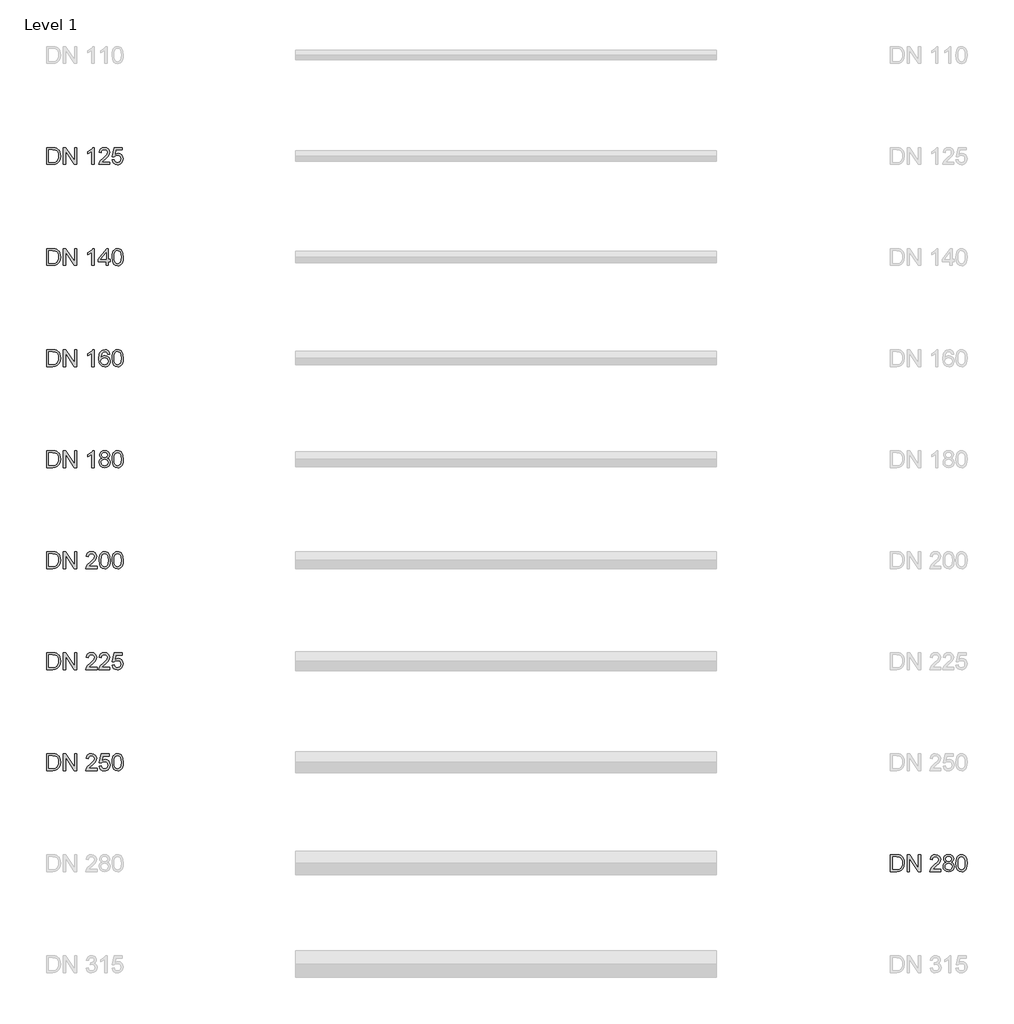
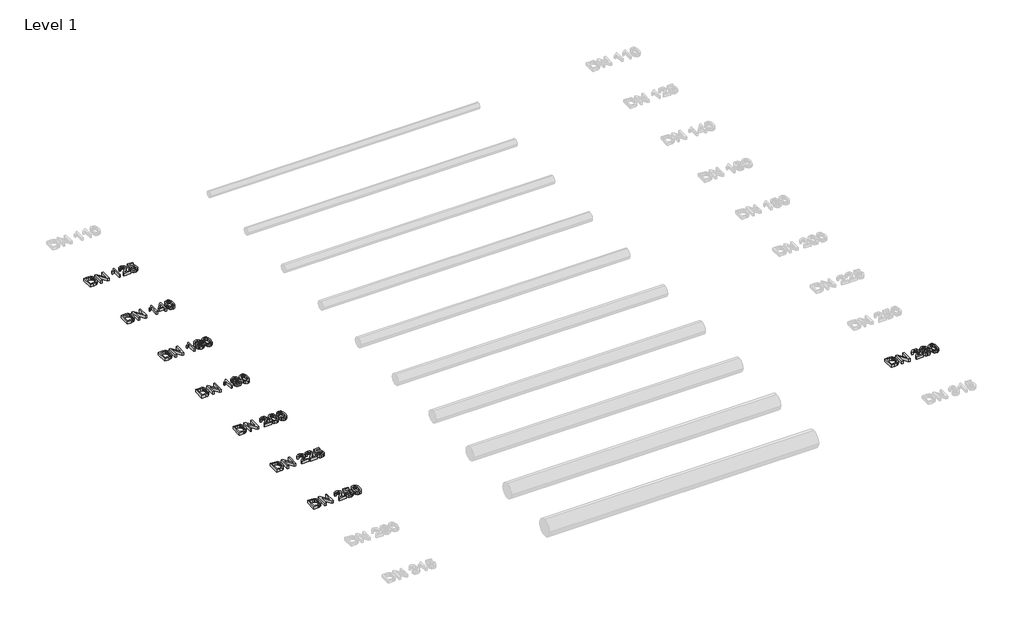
# One storey, part 8 of 26: 8 proxies.
"""IFC4 building model written with IfcOpenShell, lengths in millimetres."""

from ifc_helpers import new_model, si_unit, origin, origin_with_axes, place, context, project, spatial, polyline, outline, extrude, element, save

model = new_model("IFC4")

# Units and contexts
model_context = context("Model", 3, world=origin())
ifc_project = project(units=[si_unit("LENGTHUNIT", "METRE", prefix="MILLI")], contexts=[model_context])

# Site, building, storey
site = spatial("IfcSite", under=ifc_project)
building = spatial("IfcBuilding", under=site)
storey = spatial("IfcBuildingStorey", under=building, Name="Level 1", Elevation=0.0)

# Proxies
placement = place(None, origin())
element("IfcBuildingElementProxy", 1, Name="200mm Arial", ObjectType="200mm Arial", at=placement, inside=storey, context=model_context, shape_type="SweptSolid", body=[
    extrude(outline(polyline([(-19491.3116028, -75213.949573), (-19491.3116028, -75013.0369527), (-19422.0026349, -75013.0369527), (-19386.1464031, -75015.9309577), (-19370.1312736, -75021.5105013), (-19356.6177416, -75030.302881), (-19342.724065, -75045.606772), (-19332.8280393, -75064.6385338), (-19326.9051392, -75087.0302846), (-19324.9308391, -75112.4141423), (-19330.2773908, -75152.9547382), (-19344.0116519, -75182.2136195), (-19362.3567008, -75200.436041), (-19386.3671323, -75210.5160077), (-19418.6671715, -75213.949573), (-19491.3116028, -75213.949573)]), holes=[polyline([(-19466.1975253, -75188.8354954), (-19421.7573803, -75188.8354954), (-19389.4328156, -75185.2057264), (-19370.7934612, -75174.9540815), (-19362.0685265, -75164.0831685), (-19355.5140957, -75150.0116822), (-19351.4122114, -75132.6783089), (-19350.0449167, -75112.0217348), (-19352.7243239, -75084.6513144), (-19360.7625455, -75064.4423301), (-19372.6390025, -75050.5609162), (-19386.8331162, -75042.1732067), (-19422.4440933, -75038.1510302), (-19466.1975253, -75038.1510302), (-19466.1975253, -75188.8354954)])]), origin_with_axes(), (0.0, 0.0, 1.0), 50.0),
    extrude(outline(polyline([(-19290.3989825, -75213.949573), (-19290.3989825, -75013.0369527), (-19263.5190714, -75013.0369527), (-19158.5500754, -75172.2072292), (-19158.5500754, -75013.0369527), (-19133.4359979, -75013.0369527), (-19133.4359979, -75213.949573), (-19160.315909, -75213.949573), (-19265.284905, -75054.7302454), (-19265.284905, -75213.949573), (-19290.3989825, -75213.949573)])), origin_with_axes(), (0.0, 0.0, 1.0), 50.0),
    extrude(outline(polyline([(-18926.2448582, -75213.949573), (-18951.3589358, -75213.949573), (-18951.3589358, -75057.3789958), (-18975.1486381, -75074.3260931), (-19001.5870908, -75087.0057592), (-19001.5870908, -75063.2651077), (-18964.7743658, -75039.769711), (-18951.3037535, -75026.1948653), (-18942.431666, -75013.0369527), (-18926.2448582, -75013.0369527), (-18926.2448582, -75213.949573)])), origin_with_axes(), (0.0, 0.0, 1.0), 50.0),
    extrude(outline(polyline([(-18737.8892767, -75066.4043674), (-18763.0033542, -75069.5436271), (-18772.5192352, -75048.5988789), (-18783.9113143, -75040.7629924), (-18797.6823636, -75038.1510302), (-18820.3438945, -75044.2333458), (-18829.7800677, -75053.8411973), (-18837.4871955, -75067.066555), (-18842.6927257, -75085.7733545), (-18844.6241062, -75111.8255311), (-18834.5502709, -75100.0717013), (-18822.4776101, -75091.7882251), (-18809.0805741, -75086.8770005), (-18795.0336133, -75085.2399256), (-18771.8325221, -75089.7158232), (-18752.3593018, -75103.143516), (-18739.1523382, -75123.6590686), (-18734.750017, -75149.3985455), (-18736.8224189, -75167.3818437), (-18743.0396246, -75184.0530295), (-18752.8865994, -75198.1919608), (-18765.8483083, -75208.5784958), (-18781.3361403, -75214.9612484), (-18798.7614842, -75217.0888326), (-18827.2539447, -75211.4479754), (-18849.9461324, -75194.5254036), (-18858.6051549, -75181.4165418), (-18864.7901709, -75164.6533856), (-18869.7381838, -75120.1641897), (-18864.2444793, -75070.144501), (-18857.3773487, -75051.0667539), (-18847.7633659, -75035.9437382), (-18837.3431084, -75025.9220195), (-18825.2612505, -75018.763649), (-18796.1127338, -75013.0369527), (-18774.0766023, -75016.5808825), (-18756.4305292, -75027.2126722), (-18744.0696942, -75044.0984558), (-18737.8892767, -75066.4043674)]), holes=[polyline([(-18844.6241062, -75149.0061381), (-18838.8115707, -75170.7602267), (-18823.3605269, -75186.554627), (-18800.7235215, -75191.9747551), (-18784.1504376, -75189.1665892), (-18771.1212836, -75180.7420915), (-18762.6783918, -75167.4983397), (-18759.8640945, -75150.2324114), (-18762.6416036, -75133.6593275), (-18770.9741308, -75121.022581), (-18784.224014, -75113.0211476), (-18801.7535911, -75110.3540031), (-18818.3021495, -75113.0211476), (-18832.1406439, -75121.022581), (-18841.5032406, -75133.3527592), (-18844.6241062, -75149.0061381)])]), origin_with_axes(), (0.0, 0.0, 1.0), 50.0),
    extrude(outline(polyline([(-18712.7751992, -75115.1119436), (-18710.9296578, -75082.9529258), (-18705.3930338, -75057.3054194), (-18696.2205094, -75037.7770168), (-18683.4672669, -75023.9753106), (-18667.0413358, -75015.7715422), (-18646.8507456, -75013.0369527), (-18631.3751764, -75014.6556334), (-18617.5182879, -75019.5116758), (-18605.930005, -75027.4150073), (-18597.2602527, -75038.1755557), (-18585.4880288, -75067.9004209), (-18580.9262921, -75115.1119436), (-18582.7534393, -75147.0870203), (-18588.2348811, -75172.6732131), (-18597.3522232, -75192.2200098), (-18610.0870716, -75206.0768983), (-18626.5497909, -75214.335849), (-18646.8507456, -75217.0888326), (-18672.9458418, -75212.3063667), (-18692.7624186, -75197.9589689), (-18701.5180101, -75182.8298218), (-18707.772004, -75163.9789353), (-18712.7751992, -75115.1119436)]), holes=[polyline([(-18687.6611216, -75115.0628927), (-18684.7180657, -75154.5672876), (-18675.8888978, -75177.4311536), (-18662.7432478, -75188.3388547), (-18646.8507456, -75191.9747551), (-18630.9582434, -75188.326592), (-18617.8125935, -75177.3821026), (-18608.9834256, -75154.5059739), (-18606.0403696, -75115.0628927), (-18608.8853237, -75076.4475459), (-18617.420186, -75053.4058703), (-18630.5413105, -75041.9647402), (-18647.1450512, -75038.1510302), (-18662.8658751, -75041.5110191), (-18675.4964903, -75051.5909857), (-18684.6199638, -75076.0674012), (-18687.6611216, -75115.0628927)])]), origin_with_axes(), (0.0, 0.0, 1.0), 50.0),
])
element("IfcBuildingElementProxy", 2, Name="200mm Arial", ObjectType="200mm Arial", at=placement, inside=storey, context=model_context, shape_type="SweptSolid", body=[
    extrude(outline(polyline([(-19491.3116028, -77613.949573), (-19491.3116028, -77413.0369527), (-19422.0026349, -77413.0369527), (-19386.1464031, -77415.9309577), (-19370.1312736, -77421.5105013), (-19356.6177416, -77430.302881), (-19342.724065, -77445.606772), (-19332.8280393, -77464.6385338), (-19326.9051392, -77487.0302846), (-19324.9308391, -77512.4141423), (-19330.2773908, -77552.9547382), (-19344.0116519, -77582.2136195), (-19362.3567008, -77600.436041), (-19386.3671323, -77610.5160077), (-19418.6671715, -77613.949573), (-19491.3116028, -77613.949573)]), holes=[polyline([(-19466.1975253, -77588.8354954), (-19421.7573803, -77588.8354954), (-19389.4328156, -77585.2057264), (-19370.7934612, -77574.9540815), (-19362.0685265, -77564.0831685), (-19355.5140957, -77550.0116822), (-19351.4122114, -77532.6783089), (-19350.0449167, -77512.0217348), (-19352.7243239, -77484.6513144), (-19360.7625455, -77464.4423301), (-19372.6390025, -77450.5609162), (-19386.8331162, -77442.1732067), (-19422.4440933, -77438.1510302), (-19466.1975253, -77438.1510302), (-19466.1975253, -77588.8354954)])]), origin_with_axes(), (0.0, 0.0, 1.0), 50.0),
    extrude(outline(polyline([(-19290.3989825, -77613.949573), (-19290.3989825, -77413.0369527), (-19263.5190714, -77413.0369527), (-19158.5500754, -77572.2072292), (-19158.5500754, -77413.0369527), (-19133.4359979, -77413.0369527), (-19133.4359979, -77613.949573), (-19160.315909, -77613.949573), (-19265.284905, -77454.7302454), (-19265.284905, -77613.949573), (-19290.3989825, -77613.949573)])), origin_with_axes(), (0.0, 0.0, 1.0), 50.0),
    extrude(outline(polyline([(-18891.7130016, -77588.8354954), (-18891.7130016, -77613.949573), (-19023.5619087, -77613.949573), (-19020.8641074, -77596.6345937), (-19005.6092673, -77569.9754118), (-18974.1676195, -77540.8636832), (-18930.806595, -77499.0232377), (-18922.6764029, -77484.6022634), (-18919.9663388, -77470.5736967), (-18922.5231187, -77457.9982638), (-18930.1934583, -77447.5442838), (-18941.9840762, -77440.4993436), (-18956.9016912, -77438.1510302), (-18972.5673328, -77440.4441613), (-18984.7380955, -77447.3235546), (-18992.5923761, -77458.2496499), (-18995.3085714, -77472.6828868), (-19020.422649, -77469.5436271), (-19014.334202, -77445.2511527), (-19001.1701579, -77427.5069778), (-18981.6172299, -77416.6544589), (-18956.3621309, -77413.0369527), (-18930.9230909, -77417.0591291), (-18911.4069511, -77429.1256586), (-18898.9909337, -77447.1518763), (-18894.8522613, -77469.0531178), (-18899.3158962, -77492.8673456), (-18914.1538033, -77517.4909138), (-18950.1326624, -77551.9001431), (-18979.0236618, -77576.0577275), (-18990.3544272, -77588.8354954), (-18891.7130016, -77588.8354954)])), origin_with_axes(), (0.0, 0.0, 1.0), 50.0),
    extrude(outline(polyline([(-18866.5989241, -77515.1119436), (-18864.7533827, -77482.9529258), (-18859.2167587, -77457.3054194), (-18850.0442343, -77437.7770168), (-18837.2909918, -77423.9753106), (-18820.8650607, -77415.7715422), (-18800.6744705, -77413.0369527), (-18785.1989013, -77414.6556334), (-18771.3420128, -77419.5116758), (-18759.7537299, -77427.4150073), (-18751.0839776, -77438.1755557), (-18739.3117537, -77467.9004209), (-18734.750017, -77515.1119436), (-18736.5771642, -77547.0870203), (-18742.058606, -77572.6732131), (-18751.1759481, -77592.2200098), (-18763.9107965, -77606.0768983), (-18780.3735158, -77614.335849), (-18800.6744705, -77617.0888326), (-18826.7695667, -77612.3063667), (-18846.5861435, -77597.9589689), (-18855.341735, -77582.8298218), (-18861.5957289, -77563.9789353), (-18866.5989241, -77515.1119436)]), holes=[polyline([(-18841.4848465, -77515.0628927), (-18838.5417906, -77554.5672876), (-18829.7126227, -77577.4311536), (-18816.5669727, -77588.3388547), (-18800.6744705, -77591.9747551), (-18784.7819683, -77588.326592), (-18771.6363184, -77577.3821026), (-18762.8071505, -77554.5059739), (-18759.8640945, -77515.0628927), (-18762.7090486, -77476.4475459), (-18771.2439109, -77453.4058703), (-18784.3650354, -77441.9647402), (-18800.9687761, -77438.1510302), (-18816.6896001, -77441.5110191), (-18829.3202152, -77451.5909857), (-18838.4436887, -77476.0674012), (-18841.4848465, -77515.0628927)])]), origin_with_axes(), (0.0, 0.0, 1.0), 50.0),
    extrude(outline(polyline([(-18712.7751992, -77515.1119436), (-18710.9296578, -77482.9529258), (-18705.3930338, -77457.3054194), (-18696.2205094, -77437.7770168), (-18683.4672669, -77423.9753106), (-18667.0413358, -77415.7715422), (-18646.8507456, -77413.0369527), (-18631.3751764, -77414.6556334), (-18617.5182879, -77419.5116758), (-18605.930005, -77427.4150073), (-18597.2602527, -77438.1755557), (-18585.4880288, -77467.9004209), (-18580.9262921, -77515.1119436), (-18582.7534393, -77547.0870203), (-18588.2348811, -77572.6732131), (-18597.3522232, -77592.2200098), (-18610.0870716, -77606.0768983), (-18626.5497909, -77614.335849), (-18646.8507456, -77617.0888326), (-18672.9458418, -77612.3063667), (-18692.7624186, -77597.9589689), (-18701.5180101, -77582.8298218), (-18707.772004, -77563.9789353), (-18712.7751992, -77515.1119436)]), holes=[polyline([(-18687.6611216, -77515.0628927), (-18684.7180657, -77554.5672876), (-18675.8888978, -77577.4311536), (-18662.7432478, -77588.3388547), (-18646.8507456, -77591.9747551), (-18630.9582434, -77588.326592), (-18617.8125935, -77577.3821026), (-18608.9834256, -77554.5059739), (-18606.0403696, -77515.0628927), (-18608.8853237, -77476.4475459), (-18617.420186, -77453.4058703), (-18630.5413105, -77441.9647402), (-18647.1450512, -77438.1510302), (-18662.8658751, -77441.5110191), (-18675.4964903, -77451.5909857), (-18684.6199638, -77476.0674012), (-18687.6611216, -77515.0628927)])]), origin_with_axes(), (0.0, 0.0, 1.0), 50.0),
])
element("IfcBuildingElementProxy", 3, Name="200mm Arial", ObjectType="200mm Arial", at=placement, inside=storey, context=model_context, shape_type="SweptSolid", body=[
    extrude(outline(polyline([(-19491.3116028, -80013.949573), (-19491.3116028, -79813.0369527), (-19422.0026349, -79813.0369527), (-19386.1464031, -79815.9309577), (-19370.1312736, -79821.5105013), (-19356.6177416, -79830.302881), (-19342.724065, -79845.606772), (-19332.8280393, -79864.6385338), (-19326.9051392, -79887.0302846), (-19324.9308391, -79912.4141423), (-19330.2773908, -79952.9547382), (-19344.0116519, -79982.2136195), (-19362.3567008, -80000.436041), (-19386.3671323, -80010.5160077), (-19418.6671715, -80013.949573), (-19491.3116028, -80013.949573)]), holes=[polyline([(-19466.1975253, -79988.8354954), (-19421.7573803, -79988.8354954), (-19389.4328156, -79985.2057264), (-19370.7934612, -79974.9540815), (-19362.0685265, -79964.0831685), (-19355.5140957, -79950.0116822), (-19351.4122114, -79932.6783089), (-19350.0449167, -79912.0217348), (-19352.7243239, -79884.6513144), (-19360.7625455, -79864.4423301), (-19372.6390025, -79850.5609162), (-19386.8331162, -79842.1732067), (-19422.4440933, -79838.1510302), (-19466.1975253, -79838.1510302), (-19466.1975253, -79988.8354954)])]), origin_with_axes(), (0.0, 0.0, 1.0), 50.0),
    extrude(outline(polyline([(-19290.3989825, -80013.949573), (-19290.3989825, -79813.0369527), (-19263.5190714, -79813.0369527), (-19158.5500754, -79972.2072292), (-19158.5500754, -79813.0369527), (-19133.4359979, -79813.0369527), (-19133.4359979, -80013.949573), (-19160.315909, -80013.949573), (-19265.284905, -79854.7302454), (-19265.284905, -80013.949573), (-19290.3989825, -80013.949573)])), origin_with_axes(), (0.0, 0.0, 1.0), 50.0),
    extrude(outline(polyline([(-18891.7130016, -79988.8354954), (-18891.7130016, -80013.949573), (-19023.5619087, -80013.949573), (-19020.8641074, -79996.6345937), (-19005.6092673, -79969.9754118), (-18974.1676195, -79940.8636832), (-18930.806595, -79899.0232377), (-18922.6764029, -79884.6022634), (-18919.9663388, -79870.5736967), (-18922.5231187, -79857.9982638), (-18930.1934583, -79847.5442838), (-18941.9840762, -79840.4993436), (-18956.9016912, -79838.1510302), (-18972.5673328, -79840.4441613), (-18984.7380955, -79847.3235546), (-18992.5923761, -79858.2496499), (-18995.3085714, -79872.6828868), (-19020.422649, -79869.5436271), (-19014.334202, -79845.2511527), (-19001.1701579, -79827.5069778), (-18981.6172299, -79816.6544589), (-18956.3621309, -79813.0369527), (-18930.9230909, -79817.0591291), (-18911.4069511, -79829.1256586), (-18898.9909337, -79847.1518763), (-18894.8522613, -79869.0531178), (-18899.3158962, -79892.8673456), (-18914.1538033, -79917.4909138), (-18950.1326624, -79951.9001431), (-18979.0236618, -79976.0577275), (-18990.3544272, -79988.8354954), (-18891.7130016, -79988.8354954)])), origin_with_axes(), (0.0, 0.0, 1.0), 50.0),
    extrude(outline(polyline([(-18866.5989241, -79960.5821582), (-18841.4848465, -79957.4428985), (-18836.8740589, -79972.5199289), (-18828.8297059, -79983.3172655), (-18817.3885758, -79989.8103827), (-18802.5874569, -79991.9747551), (-18784.5857646, -79988.9642541), (-18771.0967581, -79979.9327511), (-18762.6722604, -79965.9225785), (-18759.8640945, -79947.9760685), (-18762.4944508, -79931.0780222), (-18770.3855196, -79918.1531014), (-18783.5986146, -79909.9493329), (-18802.1950494, -79907.2147434), (-18824.2434437, -79911.5802764), (-18838.3455868, -79922.9110419), (-18863.4596644, -79919.7717822), (-18841.4848465, -79816.1762123), (-18744.1677961, -79816.1762123), (-18744.1677961, -79841.2902899), (-18821.1777604, -79841.2902899), (-18831.9199147, -79896.619742), (-18813.979536, -79885.7304349), (-18795.1807661, -79882.1006659), (-18771.7160261, -79886.601089), (-18752.2366745, -79900.1023582), (-18739.1216814, -79920.6792244), (-18734.750017, -79946.4064386), (-18738.6863543, -79971.5205162), (-18750.4953664, -79993.0048247), (-18760.9309523, -80003.5415782), (-18773.1078464, -80011.0678307), (-18787.0260485, -80015.5835821), (-18802.6855588, -80017.0888326), (-18827.3520466, -80013.2199403), (-18847.0030765, -80001.6132634), (-18860.4736888, -79983.6177025), (-18866.5989241, -79960.5821582)])), origin_with_axes(), (0.0, 0.0, 1.0), 50.0),
    extrude(outline(polyline([(-18712.7751992, -79915.1119436), (-18710.9296578, -79882.9529258), (-18705.3930338, -79857.3054194), (-18696.2205094, -79837.7770168), (-18683.4672669, -79823.9753106), (-18667.0413358, -79815.7715422), (-18646.8507456, -79813.0369527), (-18631.3751764, -79814.6556334), (-18617.5182879, -79819.5116758), (-18605.930005, -79827.4150073), (-18597.2602527, -79838.1755557), (-18585.4880288, -79867.9004209), (-18580.9262921, -79915.1119436), (-18582.7534393, -79947.0870203), (-18588.2348811, -79972.6732131), (-18597.3522232, -79992.2200098), (-18610.0870716, -80006.0768983), (-18626.5497909, -80014.335849), (-18646.8507456, -80017.0888326), (-18672.9458418, -80012.3063667), (-18692.7624186, -79997.9589689), (-18701.5180101, -79982.8298218), (-18707.772004, -79963.9789353), (-18712.7751992, -79915.1119436)]), holes=[polyline([(-18687.6611216, -79915.0628927), (-18684.7180657, -79954.5672876), (-18675.8888978, -79977.4311536), (-18662.7432478, -79988.3388547), (-18646.8507456, -79991.9747551), (-18630.9582434, -79988.326592), (-18617.8125935, -79977.3821026), (-18608.9834256, -79954.5059739), (-18606.0403696, -79915.0628927), (-18608.8853237, -79876.4475459), (-18617.420186, -79853.4058703), (-18630.5413105, -79841.9647402), (-18647.1450512, -79838.1510302), (-18662.8658751, -79841.5110191), (-18675.4964903, -79851.5909857), (-18684.6199638, -79876.0674012), (-18687.6611216, -79915.0628927)])]), origin_with_axes(), (0.0, 0.0, 1.0), 50.0),
])
element("IfcBuildingElementProxy", 4, Name="200mm Arial", ObjectType="200mm Arial", at=placement, inside=storey, context=model_context, shape_type="SweptSolid", body=[
    extrude(outline(polyline([(-19491.3116028, -72813.949573), (-19491.3116028, -72613.0369527), (-19422.0026349, -72613.0369527), (-19386.1464031, -72615.9309577), (-19370.1312736, -72621.5105013), (-19356.6177416, -72630.302881), (-19342.724065, -72645.606772), (-19332.8280393, -72664.6385338), (-19326.9051392, -72687.0302846), (-19324.9308391, -72712.4141423), (-19330.2773908, -72752.9547382), (-19344.0116519, -72782.2136195), (-19362.3567008, -72800.436041), (-19386.3671323, -72810.5160077), (-19418.6671715, -72813.949573), (-19491.3116028, -72813.949573)]), holes=[polyline([(-19466.1975253, -72788.8354954), (-19421.7573803, -72788.8354954), (-19389.4328156, -72785.2057264), (-19370.7934612, -72774.9540815), (-19362.0685265, -72764.0831685), (-19355.5140957, -72750.0116822), (-19351.4122114, -72732.6783089), (-19350.0449167, -72712.0217348), (-19352.7243239, -72684.6513144), (-19360.7625455, -72664.4423301), (-19372.6390025, -72650.5609162), (-19386.8331162, -72642.1732067), (-19422.4440933, -72638.1510302), (-19466.1975253, -72638.1510302), (-19466.1975253, -72788.8354954)])]), origin_with_axes(), (0.0, 0.0, 1.0), 50.0),
    extrude(outline(polyline([(-19290.3989825, -72813.949573), (-19290.3989825, -72613.0369527), (-19263.5190714, -72613.0369527), (-19158.5500754, -72772.2072292), (-19158.5500754, -72613.0369527), (-19133.4359979, -72613.0369527), (-19133.4359979, -72813.949573), (-19160.315909, -72813.949573), (-19265.284905, -72654.7302454), (-19265.284905, -72813.949573), (-19290.3989825, -72813.949573)])), origin_with_axes(), (0.0, 0.0, 1.0), 50.0),
    extrude(outline(polyline([(-18926.2448582, -72813.949573), (-18951.3589358, -72813.949573), (-18951.3589358, -72657.3789958), (-18975.1486381, -72674.3260931), (-19001.5870908, -72687.0057592), (-19001.5870908, -72663.2651077), (-18964.7743658, -72639.769711), (-18951.3037535, -72626.1948653), (-18942.431666, -72613.0369527), (-18926.2448582, -72613.0369527), (-18926.2448582, -72813.949573)])), origin_with_axes(), (0.0, 0.0, 1.0), 50.0),
    extrude(outline(polyline([(-18737.8892767, -72788.8354954), (-18737.8892767, -72813.949573), (-18869.7381838, -72813.949573), (-18867.0403825, -72796.6345937), (-18851.7855424, -72769.9754118), (-18820.3438945, -72740.8636832), (-18776.98287, -72699.0232377), (-18768.852678, -72684.6022634), (-18766.1426139, -72670.5736967), (-18768.6993938, -72657.9982638), (-18776.3697334, -72647.5442838), (-18788.1603513, -72640.4993436), (-18803.0779662, -72638.1510302), (-18818.7436079, -72640.4441613), (-18830.9143705, -72647.3235546), (-18838.7686511, -72658.2496499), (-18841.4848465, -72672.6828868), (-18866.5989241, -72669.5436271), (-18860.510477, -72645.2511527), (-18847.346433, -72627.5069778), (-18827.7935049, -72616.6544589), (-18802.538406, -72613.0369527), (-18777.099366, -72617.0591291), (-18757.5832262, -72629.1256586), (-18745.1672088, -72647.1518763), (-18741.0285364, -72669.0531178), (-18745.4921713, -72692.8673456), (-18760.3300784, -72717.4909138), (-18796.3089375, -72751.9001431), (-18825.1999369, -72776.0577275), (-18836.5307023, -72788.8354954), (-18737.8892767, -72788.8354954)])), origin_with_axes(), (0.0, 0.0, 1.0), 50.0),
    extrude(outline(polyline([(-18712.7751992, -72760.5821582), (-18687.6611216, -72757.4428985), (-18683.0503339, -72772.5199289), (-18675.005981, -72783.3172655), (-18663.5648509, -72789.8103827), (-18648.763732, -72791.9747551), (-18630.7620397, -72788.9642541), (-18617.2730332, -72779.9327511), (-18608.8485355, -72765.9225785), (-18606.0403696, -72747.9760685), (-18608.6707259, -72731.0780222), (-18616.5617947, -72718.1531014), (-18629.7748897, -72709.9493329), (-18648.3713245, -72707.2147434), (-18670.4197188, -72711.5802764), (-18684.5218619, -72722.9110419), (-18709.6359395, -72719.7717822), (-18687.6611216, -72616.1762123), (-18590.3440712, -72616.1762123), (-18590.3440712, -72641.2902899), (-18667.3540355, -72641.2902899), (-18678.0961897, -72696.619742), (-18660.1558111, -72685.7304349), (-18641.3570412, -72682.1006659), (-18617.8923012, -72686.601089), (-18598.4129496, -72700.1023582), (-18585.2979565, -72720.6792244), (-18580.9262921, -72746.4064386), (-18584.8626294, -72771.5205162), (-18596.6716415, -72793.0048247), (-18607.1072274, -72803.5415782), (-18619.2841214, -72811.0678307), (-18633.2023236, -72815.5835821), (-18648.8618339, -72817.0888326), (-18673.5283216, -72813.2199403), (-18693.1793515, -72801.6132634), (-18706.6499639, -72783.6177025), (-18712.7751992, -72760.5821582)])), origin_with_axes(), (0.0, 0.0, 1.0), 50.0),
])
element("IfcBuildingElementProxy", 5, Name="200mm Arial", ObjectType="200mm Arial", at=placement, inside=storey, context=model_context, shape_type="SweptSolid", body=[
    extrude(outline(polyline([(-19491.3116028, -74013.949573), (-19491.3116028, -73813.0369527), (-19422.0026349, -73813.0369527), (-19386.1464031, -73815.9309577), (-19370.1312736, -73821.5105013), (-19356.6177416, -73830.302881), (-19342.724065, -73845.606772), (-19332.8280393, -73864.6385338), (-19326.9051392, -73887.0302846), (-19324.9308391, -73912.4141423), (-19330.2773908, -73952.9547382), (-19344.0116519, -73982.2136195), (-19362.3567008, -74000.436041), (-19386.3671323, -74010.5160077), (-19418.6671715, -74013.949573), (-19491.3116028, -74013.949573)]), holes=[polyline([(-19466.1975253, -73988.8354954), (-19421.7573803, -73988.8354954), (-19389.4328156, -73985.2057264), (-19370.7934612, -73974.9540815), (-19362.0685265, -73964.0831685), (-19355.5140957, -73950.0116822), (-19351.4122114, -73932.6783089), (-19350.0449167, -73912.0217348), (-19352.7243239, -73884.6513144), (-19360.7625455, -73864.4423301), (-19372.6390025, -73850.5609162), (-19386.8331162, -73842.1732067), (-19422.4440933, -73838.1510302), (-19466.1975253, -73838.1510302), (-19466.1975253, -73988.8354954)])]), origin_with_axes(), (0.0, 0.0, 1.0), 50.0),
    extrude(outline(polyline([(-19290.3989825, -74013.949573), (-19290.3989825, -73813.0369527), (-19263.5190714, -73813.0369527), (-19158.5500754, -73972.2072292), (-19158.5500754, -73813.0369527), (-19133.4359979, -73813.0369527), (-19133.4359979, -74013.949573), (-19160.315909, -74013.949573), (-19265.284905, -73854.7302454), (-19265.284905, -74013.949573), (-19290.3989825, -74013.949573)])), origin_with_axes(), (0.0, 0.0, 1.0), 50.0),
    extrude(outline(polyline([(-18926.2448582, -74013.949573), (-18951.3589358, -74013.949573), (-18951.3589358, -73857.3789958), (-18975.1486381, -73874.3260931), (-19001.5870908, -73887.0057592), (-19001.5870908, -73863.2651077), (-18964.7743658, -73839.769711), (-18951.3037535, -73826.1948653), (-18942.431666, -73813.0369527), (-18926.2448582, -73813.0369527), (-18926.2448582, -74013.949573)])), origin_with_axes(), (0.0, 0.0, 1.0), 50.0),
    extrude(outline(polyline([(-18784.9781721, -74013.949573), (-18784.9781721, -73966.8606776), (-18876.0167031, -73966.8606776), (-18876.0167031, -73941.7466), (-18778.6996527, -73816.1762123), (-18759.8640945, -73816.1762123), (-18759.8640945, -73941.7466), (-18734.750017, -73941.7466), (-18734.750017, -73966.8606776), (-18759.8640945, -73966.8606776), (-18759.8640945, -74013.949573), (-18784.9781721, -74013.949573)]), holes=[polyline([(-18784.9781721, -73941.7466), (-18784.9781721, -73864.1480245), (-18845.1146156, -73941.7466), (-18784.9781721, -73941.7466)])]), origin_with_axes(), (0.0, 0.0, 1.0), 50.0),
    extrude(outline(polyline([(-18712.7751992, -73915.1119436), (-18710.9296578, -73882.9529258), (-18705.3930338, -73857.3054194), (-18696.2205094, -73837.7770168), (-18683.4672669, -73823.9753106), (-18667.0413358, -73815.7715422), (-18646.8507456, -73813.0369527), (-18631.3751764, -73814.6556334), (-18617.5182879, -73819.5116758), (-18605.930005, -73827.4150073), (-18597.2602527, -73838.1755557), (-18585.4880288, -73867.9004209), (-18580.9262921, -73915.1119436), (-18582.7534393, -73947.0870203), (-18588.2348811, -73972.6732131), (-18597.3522232, -73992.2200098), (-18610.0870716, -74006.0768983), (-18626.5497909, -74014.335849), (-18646.8507456, -74017.0888326), (-18672.9458418, -74012.3063667), (-18692.7624186, -73997.9589689), (-18701.5180101, -73982.8298218), (-18707.772004, -73963.9789353), (-18712.7751992, -73915.1119436)]), holes=[polyline([(-18687.6611216, -73915.0628927), (-18684.7180657, -73954.5672876), (-18675.8888978, -73977.4311536), (-18662.7432478, -73988.3388547), (-18646.8507456, -73991.9747551), (-18630.9582434, -73988.326592), (-18617.8125935, -73977.3821026), (-18608.9834256, -73954.5059739), (-18606.0403696, -73915.0628927), (-18608.8853237, -73876.4475459), (-18617.420186, -73853.4058703), (-18630.5413105, -73841.9647402), (-18647.1450512, -73838.1510302), (-18662.8658751, -73841.5110191), (-18675.4964903, -73851.5909857), (-18684.6199638, -73876.0674012), (-18687.6611216, -73915.0628927)])]), origin_with_axes(), (0.0, 0.0, 1.0), 50.0),
])
element("IfcBuildingElementProxy", 6, Name="200mm Arial", ObjectType="200mm Arial", at=placement, inside=storey, context=model_context, shape_type="SweptSolid", body=[
    extrude(outline(polyline([(-19491.3116028, -76413.949573), (-19491.3116028, -76213.0369527), (-19422.0026349, -76213.0369527), (-19386.1464031, -76215.9309577), (-19370.1312736, -76221.5105013), (-19356.6177416, -76230.302881), (-19342.724065, -76245.606772), (-19332.8280393, -76264.6385338), (-19326.9051392, -76287.0302846), (-19324.9308391, -76312.4141423), (-19330.2773908, -76352.9547382), (-19344.0116519, -76382.2136195), (-19362.3567008, -76400.436041), (-19386.3671323, -76410.5160077), (-19418.6671715, -76413.949573), (-19491.3116028, -76413.949573)]), holes=[polyline([(-19466.1975253, -76388.8354954), (-19421.7573803, -76388.8354954), (-19389.4328156, -76385.2057264), (-19370.7934612, -76374.9540815), (-19362.0685265, -76364.0831685), (-19355.5140957, -76350.0116822), (-19351.4122114, -76332.6783089), (-19350.0449167, -76312.0217348), (-19352.7243239, -76284.6513144), (-19360.7625455, -76264.4423301), (-19372.6390025, -76250.5609162), (-19386.8331162, -76242.1732067), (-19422.4440933, -76238.1510302), (-19466.1975253, -76238.1510302), (-19466.1975253, -76388.8354954)])]), origin_with_axes(), (0.0, 0.0, 1.0), 50.0),
    extrude(outline(polyline([(-19290.3989825, -76413.949573), (-19290.3989825, -76213.0369527), (-19263.5190714, -76213.0369527), (-19158.5500754, -76372.2072292), (-19158.5500754, -76213.0369527), (-19133.4359979, -76213.0369527), (-19133.4359979, -76413.949573), (-19160.315909, -76413.949573), (-19265.284905, -76254.7302454), (-19265.284905, -76413.949573), (-19290.3989825, -76413.949573)])), origin_with_axes(), (0.0, 0.0, 1.0), 50.0),
    extrude(outline(polyline([(-18926.2448582, -76413.949573), (-18951.3589358, -76413.949573), (-18951.3589358, -76257.3789958), (-18975.1486381, -76274.3260931), (-19001.5870908, -76287.0057592), (-19001.5870908, -76263.2651077), (-18964.7743658, -76239.769711), (-18951.3037535, -76226.1948653), (-18942.431666, -76213.0369527), (-18926.2448582, -76213.0369527), (-18926.2448582, -76413.949573)])), origin_with_axes(), (0.0, 0.0, 1.0), 50.0),
    extrude(outline(polyline([(-18830.0069283, -76303.2906688), (-18843.4530152, -76296.6687929), (-18852.8891884, -76287.6924722), (-18858.4626006, -76276.5456478), (-18860.3204047, -76263.4122605), (-18856.2737027, -76243.7796247), (-18844.1335969, -76227.5560287), (-18825.2612505, -76216.6667217), (-18801.0178271, -76213.0369527), (-18776.6272508, -76216.7525608), (-18757.5096498, -76227.8993853), (-18745.1488147, -76244.3804986), (-18741.0285364, -76264.0989736), (-18742.861815, -76276.8092965), (-18748.3616508, -76287.7660486), (-18757.5893575, -76296.687187), (-18770.6062488, -76303.2906688), (-18755.1490736, -76311.255314), (-18743.8980159, -76322.9846183), (-18737.0370167, -76337.9144959), (-18734.750017, -76355.4808612), (-18739.2872283, -76379.4912927), (-18752.8988621, -76399.332395), (-18773.9171868, -76412.6497232), (-18800.6744705, -76417.0888326), (-18827.4317543, -76412.6313291), (-18848.450079, -76399.2588186), (-18862.0617128, -76379.227644), (-18866.5989241, -76354.7941481), (-18864.2199538, -76336.5472012), (-18857.0830431, -76321.5376158), (-18845.5560739, -76310.2804267), (-18830.0069283, -76303.2906688)]), holes=[polyline([(-18835.2063271, -76264.1480245), (-18832.9806411, -76275.110908), (-18826.3035829, -76283.8664995), (-18815.3713562, -76289.6054586), (-18800.3801649, -76291.518445), (-18785.7384615, -76289.6177213), (-18774.9717818, -76283.9155504), (-18768.3499059, -76275.4542645), (-18766.1426139, -76265.276196), (-18768.4234823, -76254.7118513), (-18775.2660874, -76245.974654), (-18786.1799199, -76240.1069361), (-18800.6744705, -76238.1510302), (-18815.2609916, -76240.0640166), (-18826.1564301, -76245.8029757), (-18832.9438529, -76254.2152106), (-18835.2063271, -76264.1480245)]), polyline([(-18841.4848465, -76353.9112313), (-18837.2909918, -76372.8203659), (-18831.4845876, -76380.9321639), (-18822.4530846, -76386.97156), (-18800.4782668, -76391.9747551), (-18783.3840168, -76389.3443988), (-18770.5571979, -76381.45333), (-18762.5373704, -76369.5032966), (-18759.8640945, -76354.6960463), (-18762.6232095, -76339.6374099), (-18770.9005544, -76327.4237277), (-18784.0216789, -76319.3303238), (-18801.3121327, -76316.6325225), (-18818.1672594, -76319.2935356), (-18830.8653196, -76327.2765749), (-18838.8299648, -76339.2572652), (-18841.4848465, -76353.9112313)])]), origin_with_axes(), (0.0, 0.0, 1.0), 50.0),
    extrude(outline(polyline([(-18712.7751992, -76315.1119436), (-18710.9296578, -76282.9529258), (-18705.3930338, -76257.3054194), (-18696.2205094, -76237.7770168), (-18683.4672669, -76223.9753106), (-18667.0413358, -76215.7715422), (-18646.8507456, -76213.0369527), (-18631.3751764, -76214.6556334), (-18617.5182879, -76219.5116758), (-18605.930005, -76227.4150073), (-18597.2602527, -76238.1755557), (-18585.4880288, -76267.9004209), (-18580.9262921, -76315.1119436), (-18582.7534393, -76347.0870203), (-18588.2348811, -76372.6732131), (-18597.3522232, -76392.2200098), (-18610.0870716, -76406.0768983), (-18626.5497909, -76414.335849), (-18646.8507456, -76417.0888326), (-18672.9458418, -76412.3063667), (-18692.7624186, -76397.9589689), (-18701.5180101, -76382.8298218), (-18707.772004, -76363.9789353), (-18712.7751992, -76315.1119436)]), holes=[polyline([(-18687.6611216, -76315.0628927), (-18684.7180657, -76354.5672876), (-18675.8888978, -76377.4311536), (-18662.7432478, -76388.3388547), (-18646.8507456, -76391.9747551), (-18630.9582434, -76388.326592), (-18617.8125935, -76377.3821026), (-18608.9834256, -76354.5059739), (-18606.0403696, -76315.0628927), (-18608.8853237, -76276.4475459), (-18617.420186, -76253.4058703), (-18630.5413105, -76241.9647402), (-18647.1450512, -76238.1510302), (-18662.8658751, -76241.5110191), (-18675.4964903, -76251.5909857), (-18684.6199638, -76276.0674012), (-18687.6611216, -76315.0628927)])]), origin_with_axes(), (0.0, 0.0, 1.0), 50.0),
])
element("IfcBuildingElementProxy", 7, Name="200mm Arial", ObjectType="200mm Arial", at=placement, inside=storey, context=model_context, shape_type="SweptSolid", body=[
    extrude(outline(polyline([(-19491.3116028, -78813.949573), (-19491.3116028, -78613.0369527), (-19422.0026349, -78613.0369527), (-19386.1464031, -78615.9309577), (-19370.1312736, -78621.5105013), (-19356.6177416, -78630.302881), (-19342.724065, -78645.606772), (-19332.8280393, -78664.6385338), (-19326.9051392, -78687.0302846), (-19324.9308391, -78712.4141423), (-19330.2773908, -78752.9547382), (-19344.0116519, -78782.2136195), (-19362.3567008, -78800.436041), (-19386.3671323, -78810.5160077), (-19418.6671715, -78813.949573), (-19491.3116028, -78813.949573)]), holes=[polyline([(-19466.1975253, -78788.8354954), (-19421.7573803, -78788.8354954), (-19389.4328156, -78785.2057264), (-19370.7934612, -78774.9540815), (-19362.0685265, -78764.0831685), (-19355.5140957, -78750.0116822), (-19351.4122114, -78732.6783089), (-19350.0449167, -78712.0217348), (-19352.7243239, -78684.6513144), (-19360.7625455, -78664.4423301), (-19372.6390025, -78650.5609162), (-19386.8331162, -78642.1732067), (-19422.4440933, -78638.1510302), (-19466.1975253, -78638.1510302), (-19466.1975253, -78788.8354954)])]), origin_with_axes(), (0.0, 0.0, 1.0), 50.0),
    extrude(outline(polyline([(-19290.3989825, -78813.949573), (-19290.3989825, -78613.0369527), (-19263.5190714, -78613.0369527), (-19158.5500754, -78772.2072292), (-19158.5500754, -78613.0369527), (-19133.4359979, -78613.0369527), (-19133.4359979, -78813.949573), (-19160.315909, -78813.949573), (-19265.284905, -78654.7302454), (-19265.284905, -78813.949573), (-19290.3989825, -78813.949573)])), origin_with_axes(), (0.0, 0.0, 1.0), 50.0),
    extrude(outline(polyline([(-18891.7130016, -78788.8354954), (-18891.7130016, -78813.949573), (-19023.5619087, -78813.949573), (-19020.8641074, -78796.6345937), (-19005.6092673, -78769.9754118), (-18974.1676195, -78740.8636832), (-18930.806595, -78699.0232377), (-18922.6764029, -78684.6022634), (-18919.9663388, -78670.5736967), (-18922.5231187, -78657.9982638), (-18930.1934583, -78647.5442838), (-18941.9840762, -78640.4993436), (-18956.9016912, -78638.1510302), (-18972.5673328, -78640.4441613), (-18984.7380955, -78647.3235546), (-18992.5923761, -78658.2496499), (-18995.3085714, -78672.6828868), (-19020.422649, -78669.5436271), (-19014.334202, -78645.2511527), (-19001.1701579, -78627.5069778), (-18981.6172299, -78616.6544589), (-18956.3621309, -78613.0369527), (-18930.9230909, -78617.0591291), (-18911.4069511, -78629.1256586), (-18898.9909337, -78647.1518763), (-18894.8522613, -78669.0531178), (-18899.3158962, -78692.8673456), (-18914.1538033, -78717.4909138), (-18950.1326624, -78751.9001431), (-18979.0236618, -78776.0577275), (-18990.3544272, -78788.8354954), (-18891.7130016, -78788.8354954)])), origin_with_axes(), (0.0, 0.0, 1.0), 50.0),
    extrude(outline(polyline([(-18737.8892767, -78788.8354954), (-18737.8892767, -78813.949573), (-18869.7381838, -78813.949573), (-18867.0403825, -78796.6345937), (-18851.7855424, -78769.9754118), (-18820.3438945, -78740.8636832), (-18776.98287, -78699.0232377), (-18768.852678, -78684.6022634), (-18766.1426139, -78670.5736967), (-18768.6993938, -78657.9982638), (-18776.3697334, -78647.5442838), (-18788.1603513, -78640.4993436), (-18803.0779662, -78638.1510302), (-18818.7436079, -78640.4441613), (-18830.9143705, -78647.3235546), (-18838.7686511, -78658.2496499), (-18841.4848465, -78672.6828868), (-18866.5989241, -78669.5436271), (-18860.510477, -78645.2511527), (-18847.346433, -78627.5069778), (-18827.7935049, -78616.6544589), (-18802.538406, -78613.0369527), (-18777.099366, -78617.0591291), (-18757.5832262, -78629.1256586), (-18745.1672088, -78647.1518763), (-18741.0285364, -78669.0531178), (-18745.4921713, -78692.8673456), (-18760.3300784, -78717.4909138), (-18796.3089375, -78751.9001431), (-18825.1999369, -78776.0577275), (-18836.5307023, -78788.8354954), (-18737.8892767, -78788.8354954)])), origin_with_axes(), (0.0, 0.0, 1.0), 50.0),
    extrude(outline(polyline([(-18712.7751992, -78760.5821582), (-18687.6611216, -78757.4428985), (-18683.0503339, -78772.5199289), (-18675.005981, -78783.3172655), (-18663.5648509, -78789.8103827), (-18648.763732, -78791.9747551), (-18630.7620397, -78788.9642541), (-18617.2730332, -78779.9327511), (-18608.8485355, -78765.9225785), (-18606.0403696, -78747.9760685), (-18608.6707259, -78731.0780222), (-18616.5617947, -78718.1531014), (-18629.7748897, -78709.9493329), (-18648.3713245, -78707.2147434), (-18670.4197188, -78711.5802764), (-18684.5218619, -78722.9110419), (-18709.6359395, -78719.7717822), (-18687.6611216, -78616.1762123), (-18590.3440712, -78616.1762123), (-18590.3440712, -78641.2902899), (-18667.3540355, -78641.2902899), (-18678.0961897, -78696.619742), (-18660.1558111, -78685.7304349), (-18641.3570412, -78682.1006659), (-18617.8923012, -78686.601089), (-18598.4129496, -78700.1023582), (-18585.2979565, -78720.6792244), (-18580.9262921, -78746.4064386), (-18584.8626294, -78771.5205162), (-18596.6716415, -78793.0048247), (-18607.1072274, -78803.5415782), (-18619.2841214, -78811.0678307), (-18633.2023236, -78815.5835821), (-18648.8618339, -78817.0888326), (-18673.5283216, -78813.2199403), (-18693.1793515, -78801.6132634), (-18706.6499639, -78783.6177025), (-18712.7751992, -78760.5821582)])), origin_with_axes(), (0.0, 0.0, 1.0), 50.0),
])
element("IfcBuildingElementProxy", 8, Name="200mm Arial", ObjectType="200mm Arial", at=placement, inside=storey, context=model_context, shape_type="SweptSolid", body=[
    extrude(outline(polyline([(-9460.6923074, -81213.949573), (-9460.6923074, -81013.0369527), (-9391.3833395, -81013.0369527), (-9355.5271077, -81015.9309577), (-9339.5119782, -81021.5105013), (-9325.9984462, -81030.302881), (-9312.1047695, -81045.606772), (-9302.2087438, -81064.6385338), (-9296.2858437, -81087.0302846), (-9294.3115437, -81112.4141423), (-9299.6580953, -81152.9547382), (-9313.3923565, -81182.2136195), (-9331.7374053, -81200.436041), (-9355.7478369, -81210.5160077), (-9388.0478761, -81213.949573), (-9460.6923074, -81213.949573)]), holes=[polyline([(-9435.5782298, -81188.8354954), (-9391.1380848, -81188.8354954), (-9358.8135202, -81185.2057264), (-9340.1741658, -81174.9540815), (-9331.4492311, -81164.0831685), (-9324.8948002, -81150.0116822), (-9320.792916, -81132.6783089), (-9319.4256212, -81112.0217348), (-9322.1050284, -81084.6513144), (-9330.14325, -81064.4423301), (-9342.0197071, -81050.5609162), (-9356.2138207, -81042.1732067), (-9391.8247979, -81038.1510302), (-9435.5782298, -81038.1510302), (-9435.5782298, -81188.8354954)])]), origin_with_axes(), (0.0, 0.0, 1.0), 50.0),
    extrude(outline(polyline([(-9259.7796871, -81213.949573), (-9259.7796871, -81013.0369527), (-9232.899776, -81013.0369527), (-9127.93078, -81172.2072292), (-9127.93078, -81013.0369527), (-9102.8167025, -81013.0369527), (-9102.8167025, -81213.949573), (-9129.6966136, -81213.949573), (-9234.6656095, -81054.7302454), (-9234.6656095, -81213.949573), (-9259.7796871, -81213.949573)])), origin_with_axes(), (0.0, 0.0, 1.0), 50.0),
    extrude(outline(polyline([(-8861.0937062, -81188.8354954), (-8861.0937062, -81213.949573), (-8992.9426132, -81213.949573), (-8990.2448119, -81196.6345937), (-8974.9899719, -81169.9754118), (-8943.548324, -81140.8636832), (-8900.1872995, -81099.0232377), (-8892.0571074, -81084.6022634), (-8889.3470434, -81070.5736967), (-8891.9038233, -81057.9982638), (-8899.5741629, -81047.5442838), (-8911.3647808, -81040.4993436), (-8926.2823957, -81038.1510302), (-8941.9480373, -81040.4441613), (-8954.1188, -81047.3235546), (-8961.9730806, -81058.2496499), (-8964.689276, -81072.6828868), (-8989.8033535, -81069.5436271), (-8983.7149065, -81045.2511527), (-8970.5508625, -81027.5069778), (-8950.9979344, -81016.6544589), (-8925.7428355, -81013.0369527), (-8900.3037955, -81017.0591291), (-8880.7876556, -81029.1256586), (-8868.3716383, -81047.1518763), (-8864.2329659, -81069.0531178), (-8868.6966007, -81092.8673456), (-8883.5345079, -81117.4909138), (-8919.513367, -81151.9001431), (-8948.4043664, -81176.0577275), (-8959.7351318, -81188.8354954), (-8861.0937062, -81188.8354954)])), origin_with_axes(), (0.0, 0.0, 1.0), 50.0),
    extrude(outline(polyline([(-8799.3876328, -81103.2906688), (-8812.8337198, -81096.6687929), (-8822.2698929, -81087.6924722), (-8827.8433052, -81076.5456478), (-8829.7011092, -81063.4122605), (-8825.6544073, -81043.7796247), (-8813.5143015, -81027.5560287), (-8794.6419551, -81016.6667217), (-8770.3985316, -81013.0369527), (-8746.0079553, -81016.7525608), (-8726.8903543, -81027.8993853), (-8714.5295193, -81044.3804986), (-8710.4092409, -81064.0989736), (-8712.2425196, -81076.8092965), (-8717.7423554, -81087.7660486), (-8726.9700621, -81096.687187), (-8739.9869534, -81103.2906688), (-8724.5297782, -81111.255314), (-8713.2787205, -81122.9846183), (-8706.4177213, -81137.9144959), (-8704.1307216, -81155.4808612), (-8708.6679328, -81179.4912927), (-8722.2795667, -81199.332395), (-8743.2978913, -81212.6497232), (-8770.0551751, -81217.0888326), (-8796.8124589, -81212.6313291), (-8817.8307835, -81199.2588186), (-8831.4424174, -81179.227644), (-8835.9796286, -81154.7941481), (-8833.6006584, -81136.5472012), (-8826.4637477, -81121.5376158), (-8814.9367785, -81110.2804267), (-8799.3876328, -81103.2906688)]), holes=[polyline([(-8810.8655511, -81153.9112313), (-8806.6716963, -81172.8203659), (-8800.8652922, -81180.9321639), (-8791.8337892, -81186.97156), (-8769.8589714, -81191.9747551), (-8752.7647213, -81189.3443988), (-8739.9379024, -81181.45333), (-8731.9180749, -81169.5032966), (-8729.2447991, -81154.6960463), (-8732.0039141, -81139.6374099), (-8740.2812589, -81127.4237277), (-8753.4023834, -81119.3303238), (-8770.6928372, -81116.6325225), (-8787.547964, -81119.2935356), (-8800.2460242, -81127.2765749), (-8808.2106694, -81139.2572652), (-8810.8655511, -81153.9112313)]), polyline([(-8804.5870317, -81064.1480245), (-8802.3613456, -81075.110908), (-8795.6842874, -81083.8664995), (-8784.7520608, -81089.6054586), (-8769.7608695, -81091.518445), (-8755.1191661, -81089.6177213), (-8744.3524864, -81083.9155504), (-8737.7306104, -81075.4542645), (-8735.5233185, -81065.276196), (-8737.8041868, -81054.7118513), (-8744.646792, -81045.974654), (-8755.5606245, -81040.1069361), (-8770.0551751, -81038.1510302), (-8784.6416962, -81040.0640166), (-8795.5371346, -81045.8029757), (-8802.3245574, -81054.2152106), (-8804.5870317, -81064.1480245)])]), origin_with_axes(), (0.0, 0.0, 1.0), 50.0),
    extrude(outline(polyline([(-8682.1559037, -81115.1119436), (-8680.3103624, -81082.9529258), (-8674.7737383, -81057.3054194), (-8665.6012139, -81037.7770168), (-8652.8479714, -81023.9753106), (-8636.4220403, -81015.7715422), (-8616.2314502, -81013.0369527), (-8600.7558809, -81014.6556334), (-8586.8989924, -81019.5116758), (-8575.3107096, -81027.4150073), (-8566.6409572, -81038.1755557), (-8554.8687334, -81067.9004209), (-8550.3069966, -81115.1119436), (-8552.1341439, -81147.0870203), (-8557.6155856, -81172.6732131), (-8566.7329277, -81192.2200098), (-8579.4677761, -81206.0768983), (-8595.9304954, -81214.335849), (-8616.2314502, -81217.0888326), (-8642.3265464, -81212.3063667), (-8662.1431232, -81197.9589689), (-8670.8987147, -81182.8298218), (-8677.1527086, -81163.9789353), (-8682.1559037, -81115.1119436)]), holes=[polyline([(-8657.0418262, -81115.0628927), (-8654.0987702, -81154.5672876), (-8645.2696023, -81177.4311536), (-8632.1239524, -81188.3388547), (-8616.2314502, -81191.9747551), (-8600.338948, -81188.326592), (-8587.193298, -81177.3821026), (-8578.3641301, -81154.5059739), (-8575.4210742, -81115.0628927), (-8578.2660283, -81076.4475459), (-8586.8008906, -81053.4058703), (-8599.9220151, -81041.9647402), (-8616.5257558, -81038.1510302), (-8632.2465797, -81041.5110191), (-8644.8771949, -81051.5909857), (-8654.0006683, -81076.0674012), (-8657.0418262, -81115.0628927)])]), origin_with_axes(), (0.0, 0.0, 1.0), 50.0),
])

save(model, "model.ifc")
